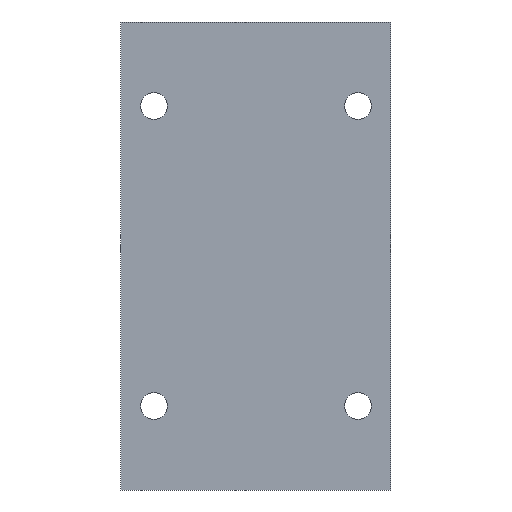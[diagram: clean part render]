
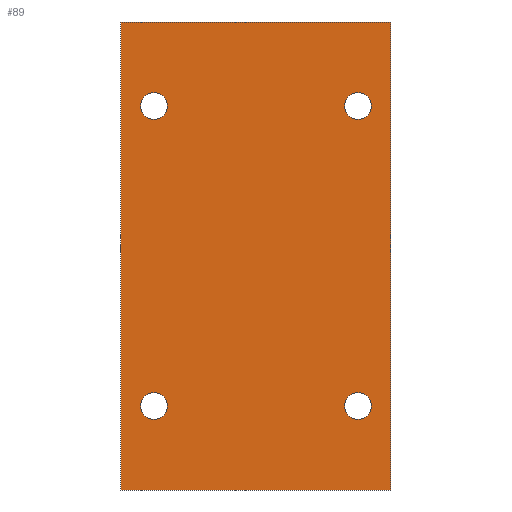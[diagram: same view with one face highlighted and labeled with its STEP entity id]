
A CAD part, front view. The second image highlights one B-rep face of the part: STEP entity #89.
In plain terms, the highlighted planar face has unit normal (0, -1, 0).
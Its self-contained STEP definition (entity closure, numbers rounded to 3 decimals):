
#5 = DIRECTION ( 'NONE',  ( 0., -1., 0. ) ) ;
#6 = EDGE_LOOP ( 'NONE', ( #989, #880 ) ) ;
#19 = EDGE_CURVE ( 'NONE', #754, #318, #866, .T. ) ;
#37 = CARTESIAN_POINT ( 'NONE',  ( 45., 0., -78. ) ) ;
#64 = CARTESIAN_POINT ( 'NONE',  ( -45., 0., 78. ) ) ;
#71 = CARTESIAN_POINT ( 'NONE',  ( -45., 0., 78. ) ) ;
#83 = EDGE_CURVE ( 'NONE', #124, #816, #421, .T. ) ;
#89 = ADVANCED_FACE ( 'NONE', ( #744, #821, #167, #614, #510 ), #220, .T. ) ;
#97 = DIRECTION ( 'NONE',  ( 0., 0., 1. ) ) ;
#103 = CIRCLE ( 'NONE', #721, 4.5 ) ;
#104 = DIRECTION ( 'NONE',  ( 0., 1., 0. ) ) ;
#108 = CIRCLE ( 'NONE', #1024, 4.5 ) ;
#117 = CIRCLE ( 'NONE', #522, 4.5 ) ;
#120 = AXIS2_PLACEMENT_3D ( 'NONE', #579, #104, #782 ) ;
#124 = VERTEX_POINT ( 'NONE', #903 ) ;
#133 = CIRCLE ( 'NONE', #972, 4.5 ) ;
#151 = DIRECTION ( 'NONE',  ( 0., -1., 0. ) ) ;
#154 = AXIS2_PLACEMENT_3D ( 'NONE', #479, #1227, #751 ) ;
#167 = FACE_OUTER_BOUND ( 'NONE', #1017, .T. ) ;
#181 = ORIENTED_EDGE ( 'NONE', *, *, #438, .T. ) ;
#197 = EDGE_CURVE ( 'NONE', #898, #415, #108, .T. ) ;
#199 = LINE ( 'NONE', #71, #1221 ) ;
#220 = PLANE ( 'NONE',  #1085 ) ;
#223 = EDGE_LOOP ( 'NONE', ( #872, #1176 ) ) ;
#233 = ORIENTED_EDGE ( 'NONE', *, *, #902, .F. ) ;
#259 = ORIENTED_EDGE ( 'NONE', *, *, #197, .F. ) ;
#272 = VERTEX_POINT ( 'NONE', #37 ) ;
#277 = DIRECTION ( 'NONE',  ( 0., 1., 0. ) ) ;
#284 = DIRECTION ( 'NONE',  ( 0., 0., -1. ) ) ;
#291 = CARTESIAN_POINT ( 'NONE',  ( 34., 0., 50. ) ) ;
#310 = EDGE_CURVE ( 'NONE', #655, #492, #1224, .T. ) ;
#313 = VECTOR ( 'NONE', #729, 1000. ) ;
#318 = VERTEX_POINT ( 'NONE', #645 ) ;
#360 = EDGE_LOOP ( 'NONE', ( #447, #181 ) ) ;
#361 = CARTESIAN_POINT ( 'NONE',  ( 34., 0., -54.5 ) ) ;
#362 = VERTEX_POINT ( 'NONE', #524 ) ;
#379 = EDGE_CURVE ( 'NONE', #362, #895, #117, .T. ) ;
#387 = DIRECTION ( 'NONE',  ( 0., -1., 0. ) ) ;
#414 = CARTESIAN_POINT ( 'NONE',  ( 0., 0., 0. ) ) ;
#415 = VERTEX_POINT ( 'NONE', #1179 ) ;
#421 = CIRCLE ( 'NONE', #1182, 4.5 ) ;
#429 = CARTESIAN_POINT ( 'NONE',  ( 34., 0., -50. ) ) ;
#438 = EDGE_CURVE ( 'NONE', #318, #754, #133, .T. ) ;
#447 = ORIENTED_EDGE ( 'NONE', *, *, #19, .T. ) ;
#472 = CARTESIAN_POINT ( 'NONE',  ( -34., 0., 54.5 ) ) ;
#478 = ORIENTED_EDGE ( 'NONE', *, *, #1002, .F. ) ;
#479 = CARTESIAN_POINT ( 'NONE',  ( 34., 0., -50. ) ) ;
#480 = CARTESIAN_POINT ( 'NONE',  ( 34., 0., 45.5 ) ) ;
#486 = CARTESIAN_POINT ( 'NONE',  ( -34., 0., -50. ) ) ;
#491 = EDGE_CURVE ( 'NONE', #816, #124, #713, .T. ) ;
#492 = VERTEX_POINT ( 'NONE', #565 ) ;
#510 = FACE_BOUND ( 'NONE', #223, .T. ) ;
#522 = AXIS2_PLACEMENT_3D ( 'NONE', #429, #888, #987 ) ;
#524 = CARTESIAN_POINT ( 'NONE',  ( 34., 0., -45.5 ) ) ;
#565 = CARTESIAN_POINT ( 'NONE',  ( 45., 0., 78. ) ) ;
#579 = CARTESIAN_POINT ( 'NONE',  ( -34., 0., 50. ) ) ;
#581 = VECTOR ( 'NONE', #644, 1000. ) ;
#598 = ORIENTED_EDGE ( 'NONE', *, *, #776, .F. ) ;
#606 = DIRECTION ( 'NONE',  ( 0., 0., 1. ) ) ;
#614 = FACE_BOUND ( 'NONE', #6, .T. ) ;
#617 = DIRECTION ( 'NONE',  ( 0., 0., -1. ) ) ;
#637 = EDGE_LOOP ( 'NONE', ( #233, #259 ) ) ;
#644 = DIRECTION ( 'NONE',  ( -1., 0., 0. ) ) ;
#645 = CARTESIAN_POINT ( 'NONE',  ( -34., 0., 45.5 ) ) ;
#655 = VERTEX_POINT ( 'NONE', #64 ) ;
#656 = LINE ( 'NONE', #928, #581 ) ;
#690 = CARTESIAN_POINT ( 'NONE',  ( 34., 0., 50. ) ) ;
#702 = ORIENTED_EDGE ( 'NONE', *, *, #871, .F. ) ;
#713 = CIRCLE ( 'NONE', #883, 4.5 ) ;
#721 = AXIS2_PLACEMENT_3D ( 'NONE', #291, #5, #97 ) ;
#729 = DIRECTION ( 'NONE',  ( 1., 0., 0. ) ) ;
#732 = CARTESIAN_POINT ( 'NONE',  ( 45., 0., 78. ) ) ;
#744 = FACE_BOUND ( 'NONE', #637, .T. ) ;
#751 = DIRECTION ( 'NONE',  ( 0., 0., -1. ) ) ;
#754 = VERTEX_POINT ( 'NONE', #472 ) ;
#776 = EDGE_CURVE ( 'NONE', #492, #272, #1053, .T. ) ;
#782 = DIRECTION ( 'NONE',  ( 0., 0., 1. ) ) ;
#795 = CARTESIAN_POINT ( 'NONE',  ( -34., 0., -50. ) ) ;
#806 = DIRECTION ( 'NONE',  ( 0., 0., 1. ) ) ;
#816 = VERTEX_POINT ( 'NONE', #1033 ) ;
#821 = FACE_BOUND ( 'NONE', #360, .T. ) ;
#835 = DIRECTION ( 'NONE',  ( 0., 0., -1. ) ) ;
#848 = VECTOR ( 'NONE', #284, 1000. ) ;
#851 = DIRECTION ( 'NONE',  ( 0., 0., 1. ) ) ;
#866 = CIRCLE ( 'NONE', #120, 4.5 ) ;
#871 = EDGE_CURVE ( 'NONE', #272, #954, #656, .T. ) ;
#872 = ORIENTED_EDGE ( 'NONE', *, *, #491, .F. ) ;
#880 = ORIENTED_EDGE ( 'NONE', *, *, #1147, .T. ) ;
#883 = AXIS2_PLACEMENT_3D ( 'NONE', #795, #151, #835 ) ;
#888 = DIRECTION ( 'NONE',  ( 0., 1., 0. ) ) ;
#895 = VERTEX_POINT ( 'NONE', #361 ) ;
#898 = VERTEX_POINT ( 'NONE', #480 ) ;
#902 = EDGE_CURVE ( 'NONE', #415, #898, #103, .T. ) ;
#903 = CARTESIAN_POINT ( 'NONE',  ( -34., 0., -54.5 ) ) ;
#918 = ORIENTED_EDGE ( 'NONE', *, *, #310, .F. ) ;
#928 = CARTESIAN_POINT ( 'NONE',  ( -45., 0., -78. ) ) ;
#954 = VERTEX_POINT ( 'NONE', #1230 ) ;
#972 = AXIS2_PLACEMENT_3D ( 'NONE', #1124, #277, #851 ) ;
#987 = DIRECTION ( 'NONE',  ( 0., 0., -1. ) ) ;
#988 = DIRECTION ( 'NONE',  ( 0., 0., -1. ) ) ;
#989 = ORIENTED_EDGE ( 'NONE', *, *, #379, .T. ) ;
#1002 = EDGE_CURVE ( 'NONE', #954, #655, #199, .T. ) ;
#1017 = EDGE_LOOP ( 'NONE', ( #598, #918, #478, #702 ) ) ;
#1018 = CIRCLE ( 'NONE', #154, 4.5 ) ;
#1024 = AXIS2_PLACEMENT_3D ( 'NONE', #690, #1168, #606 ) ;
#1033 = CARTESIAN_POINT ( 'NONE',  ( -34., 0., -45.5 ) ) ;
#1053 = LINE ( 'NONE', #732, #848 ) ;
#1068 = DIRECTION ( 'NONE',  ( 0., -1., 0. ) ) ;
#1085 = AXIS2_PLACEMENT_3D ( 'NONE', #414, #1068, #988 ) ;
#1124 = CARTESIAN_POINT ( 'NONE',  ( -34., 0., 50. ) ) ;
#1147 = EDGE_CURVE ( 'NONE', #895, #362, #1018, .T. ) ;
#1168 = DIRECTION ( 'NONE',  ( 0., -1., 0. ) ) ;
#1176 = ORIENTED_EDGE ( 'NONE', *, *, #83, .F. ) ;
#1179 = CARTESIAN_POINT ( 'NONE',  ( 34., 0., 54.5 ) ) ;
#1182 = AXIS2_PLACEMENT_3D ( 'NONE', #486, #387, #617 ) ;
#1208 = CARTESIAN_POINT ( 'NONE',  ( -45., 0., 78. ) ) ;
#1221 = VECTOR ( 'NONE', #806, 1000. ) ;
#1224 = LINE ( 'NONE', #1208, #313 ) ;
#1227 = DIRECTION ( 'NONE',  ( 0., 1., 0. ) ) ;
#1230 = CARTESIAN_POINT ( 'NONE',  ( -45., 0., -78. ) ) ;
